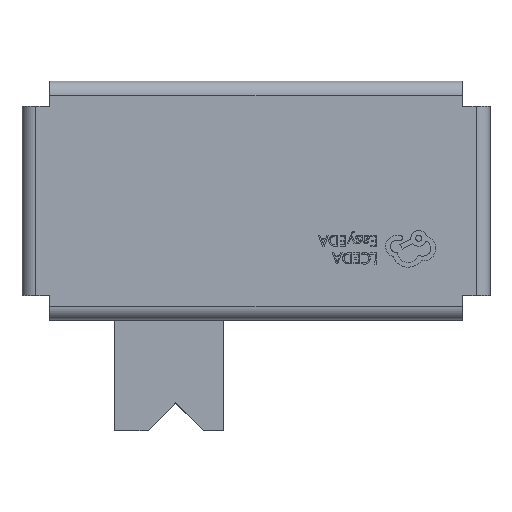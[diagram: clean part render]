
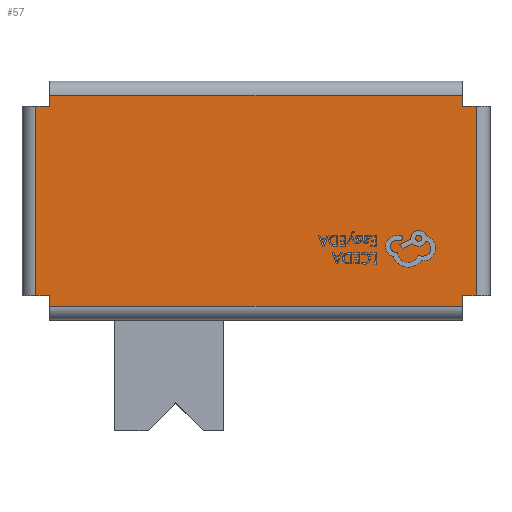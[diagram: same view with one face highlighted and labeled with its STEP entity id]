
A CAD part, top view. The second image highlights one B-rep face of the part: STEP entity #57.
In plain terms, the highlighted planar face has unit normal (0, 0, 1).
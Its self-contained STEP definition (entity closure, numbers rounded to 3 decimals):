
#48 = CARTESIAN_POINT ( 'NONE',  ( 3.901, 1.855, 1.94 ) ) ;
#57 = ADVANCED_FACE ( 'NONE', ( #7109 ), #7395, .F. ) ;
#65 = CARTESIAN_POINT ( 'NONE',  ( -3.694, -1.624, 1.94 ) ) ;
#188 = LINE ( 'NONE', #12295, #2867 ) ;
#971 = VECTOR ( 'NONE', #11527, 1000. ) ;
#982 = VECTOR ( 'NONE', #10876, 1000. ) ;
#1052 = VECTOR ( 'NONE', #11244, 1000. ) ;
#1153 = EDGE_CURVE ( 'NONE', #4469, #19255, #10693, .T. ) ;
#1200 = CARTESIAN_POINT ( 'NONE',  ( 3.901, -1.828, 1.94 ) ) ;
#1383 = CARTESIAN_POINT ( 'NONE',  ( -3.694, -1.828, 1.94 ) ) ;
#1881 = CARTESIAN_POINT ( 'NONE',  ( 3.901, -1.624, 1.94 ) ) ;
#1975 = EDGE_CURVE ( 'NONE', #17948, #9743, #16814, .T. ) ;
#2140 = DIRECTION ( 'NONE',  ( 1., 0., 0. ) ) ;
#2292 = VERTEX_POINT ( 'NONE', #1200 ) ;
#2334 = VECTOR ( 'NONE', #17811, 1000. ) ;
#2394 = VERTEX_POINT ( 'NONE', #1881 ) ;
#2478 = VECTOR ( 'NONE', #2140, 1000. ) ;
#2590 = ORIENTED_EDGE ( 'NONE', *, *, #5083, .F. ) ;
#2867 = VECTOR ( 'NONE', #5894, 1000. ) ;
#3021 = EDGE_CURVE ( 'NONE', #15988, #7102, #10244, .T. ) ;
#3187 = EDGE_CURVE ( 'NONE', #3941, #15988, #14491, .T. ) ;
#3275 = ORIENTED_EDGE ( 'NONE', *, *, #3021, .T. ) ;
#3524 = LINE ( 'NONE', #9575, #4634 ) ;
#3631 = CARTESIAN_POINT ( 'NONE',  ( -4.202, 2.059, 1.94 ) ) ;
#3725 = DIRECTION ( 'NONE',  ( 1., 0., 0. ) ) ;
#3823 = LINE ( 'NONE', #18743, #8906 ) ;
#3941 = VERTEX_POINT ( 'NONE', #14057 ) ;
#4192 = CARTESIAN_POINT ( 'NONE',  ( -3.694, -1.624, 1.94 ) ) ;
#4246 = ORIENTED_EDGE ( 'NONE', *, *, #12407, .T. ) ;
#4263 = VECTOR ( 'NONE', #15886, 1000. ) ;
#4469 = VERTEX_POINT ( 'NONE', #4192 ) ;
#4634 = VECTOR ( 'NONE', #5181, 1000. ) ;
#4947 = VECTOR ( 'NONE', #6067, 1000. ) ;
#5063 = CARTESIAN_POINT ( 'NONE',  ( 4.409, -1.828, 1.94 ) ) ;
#5083 = EDGE_CURVE ( 'NONE', #9743, #13492, #13772, .T. ) ;
#5181 = DIRECTION ( 'NONE',  ( 0., 1., 0. ) ) ;
#5509 = CARTESIAN_POINT ( 'NONE',  ( 3.901, -1.624, 1.94 ) ) ;
#5530 = CARTESIAN_POINT ( 'NONE',  ( 4.155, 2.313, 1.94 ) ) ;
#5894 = DIRECTION ( 'NONE',  ( 0., -1., 0. ) ) ;
#5906 = DIRECTION ( 'NONE',  ( -1., 0., 0. ) ) ;
#6067 = DIRECTION ( 'NONE',  ( 0., -1., 0. ) ) ;
#6573 = LINE ( 'NONE', #5063, #2478 ) ;
#6686 = EDGE_CURVE ( 'NONE', #7102, #12486, #3524, .T. ) ;
#6829 = ORIENTED_EDGE ( 'NONE', *, *, #14602, .T. ) ;
#6935 = EDGE_CURVE ( 'NONE', #19255, #2292, #6573, .T. ) ;
#7102 = VERTEX_POINT ( 'NONE', #48 ) ;
#7109 = FACE_OUTER_BOUND ( 'NONE', #14305, .T. ) ;
#7281 = VECTOR ( 'NONE', #9247, 1000. ) ;
#7355 = CARTESIAN_POINT ( 'NONE',  ( 3.901, 1.855, 1.94 ) ) ;
#7395 = PLANE ( 'NONE',  #19427 ) ;
#7829 = CARTESIAN_POINT ( 'NONE',  ( -3.694, 1.855, 1.94 ) ) ;
#8704 = CARTESIAN_POINT ( 'NONE',  ( 3.901, 2.059, 1.94 ) ) ;
#8906 = VECTOR ( 'NONE', #3725, 1000. ) ;
#9247 = DIRECTION ( 'NONE',  ( 1., 0., 0. ) ) ;
#9272 = DIRECTION ( 'NONE',  ( 0., 1., 0. ) ) ;
#9575 = CARTESIAN_POINT ( 'NONE',  ( 3.901, 1.855, 1.94 ) ) ;
#9743 = VERTEX_POINT ( 'NONE', #17450 ) ;
#9883 = CARTESIAN_POINT ( 'NONE',  ( -3.948, -2.082, 1.94 ) ) ;
#10062 = ORIENTED_EDGE ( 'NONE', *, *, #6686, .T. ) ;
#10244 = LINE ( 'NONE', #7355, #2334 ) ;
#10421 = EDGE_CURVE ( 'NONE', #2394, #2292, #188, .T. ) ;
#10599 = VERTEX_POINT ( 'NONE', #13175 ) ;
#10693 = LINE ( 'NONE', #65, #4947 ) ;
#10876 = DIRECTION ( 'NONE',  ( 0., -1., 0. ) ) ;
#11034 = LINE ( 'NONE', #3631, #4263 ) ;
#11244 = DIRECTION ( 'NONE',  ( 0., 1., 0. ) ) ;
#11527 = DIRECTION ( 'NONE',  ( -1., 0., 0. ) ) ;
#11614 = EDGE_CURVE ( 'NONE', #3941, #2394, #13011, .T. ) ;
#11626 = ORIENTED_EDGE ( 'NONE', *, *, #19123, .T. ) ;
#12295 = CARTESIAN_POINT ( 'NONE',  ( 3.901, -1.624, 1.94 ) ) ;
#12313 = CARTESIAN_POINT ( 'NONE',  ( -3.694, 2.059, 1.94 ) ) ;
#12407 = EDGE_CURVE ( 'NONE', #12486, #13492, #11034, .T. ) ;
#12411 = ORIENTED_EDGE ( 'NONE', *, *, #1153, .T. ) ;
#12486 = VERTEX_POINT ( 'NONE', #8704 ) ;
#13011 = LINE ( 'NONE', #5509, #971 ) ;
#13175 = CARTESIAN_POINT ( 'NONE',  ( -3.948, -1.624, 1.94 ) ) ;
#13314 = CARTESIAN_POINT ( 'NONE',  ( 0.103, 0.115, 1.94 ) ) ;
#13492 = VERTEX_POINT ( 'NONE', #12313 ) ;
#13603 = ORIENTED_EDGE ( 'NONE', *, *, #6935, .T. ) ;
#13772 = LINE ( 'NONE', #16634, #18760 ) ;
#14057 = CARTESIAN_POINT ( 'NONE',  ( 4.155, -1.624, 1.94 ) ) ;
#14305 = EDGE_LOOP ( 'NONE', ( #13603, #18444, #17116, #19165, #3275, #10062, #4246, #2590, #15106, #6829, #11626, #12411 ) ) ;
#14491 = LINE ( 'NONE', #5530, #1052 ) ;
#14602 = EDGE_CURVE ( 'NONE', #17948, #10599, #16888, .T. ) ;
#15106 = ORIENTED_EDGE ( 'NONE', *, *, #1975, .F. ) ;
#15886 = DIRECTION ( 'NONE',  ( -1., 0., 0. ) ) ;
#15988 = VERTEX_POINT ( 'NONE', #16315 ) ;
#16315 = CARTESIAN_POINT ( 'NONE',  ( 4.155, 1.855, 1.94 ) ) ;
#16634 = CARTESIAN_POINT ( 'NONE',  ( -3.694, 1.855, 1.94 ) ) ;
#16814 = LINE ( 'NONE', #7829, #7281 ) ;
#16888 = LINE ( 'NONE', #9883, #982 ) ;
#17116 = ORIENTED_EDGE ( 'NONE', *, *, #11614, .F. ) ;
#17450 = CARTESIAN_POINT ( 'NONE',  ( -3.694, 1.855, 1.94 ) ) ;
#17512 = CARTESIAN_POINT ( 'NONE',  ( -3.948, 1.855, 1.94 ) ) ;
#17811 = DIRECTION ( 'NONE',  ( -1., 0., 0. ) ) ;
#17948 = VERTEX_POINT ( 'NONE', #17512 ) ;
#18444 = ORIENTED_EDGE ( 'NONE', *, *, #10421, .F. ) ;
#18743 = CARTESIAN_POINT ( 'NONE',  ( -3.694, -1.624, 1.94 ) ) ;
#18760 = VECTOR ( 'NONE', #9272, 1000. ) ;
#19123 = EDGE_CURVE ( 'NONE', #10599, #4469, #3823, .T. ) ;
#19165 = ORIENTED_EDGE ( 'NONE', *, *, #3187, .T. ) ;
#19255 = VERTEX_POINT ( 'NONE', #1383 ) ;
#19348 = DIRECTION ( 'NONE',  ( 0., 0., -1. ) ) ;
#19427 = AXIS2_PLACEMENT_3D ( 'NONE', #13314, #19348, #5906 ) ;
